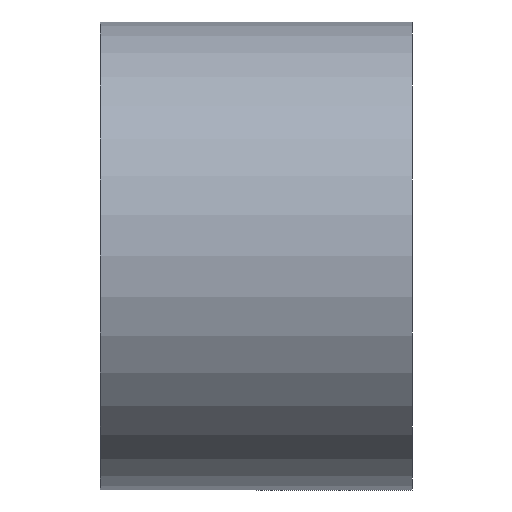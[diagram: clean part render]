
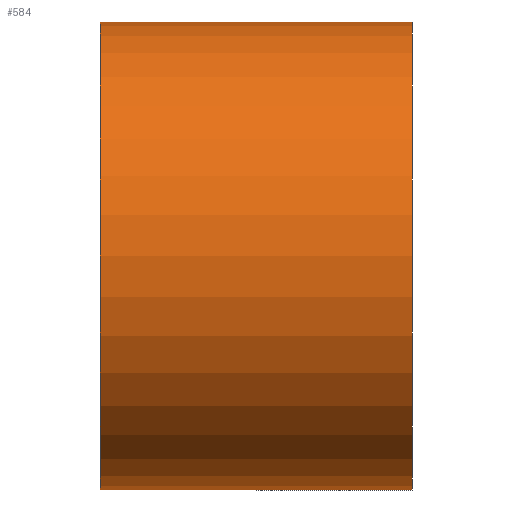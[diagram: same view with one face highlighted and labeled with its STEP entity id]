
A CAD part, front view. The second image highlights one B-rep face of the part: STEP entity #584.
In plain terms, the highlighted cylindrical face has radius 30 mm (diameter 60 mm), a partial arc.
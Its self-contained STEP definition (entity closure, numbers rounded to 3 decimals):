
#2 = DIRECTION ( 'NONE',  ( -1., 0., 0. ) ) ;
#24 = AXIS2_PLACEMENT_3D ( 'NONE', #585, #679, #399 ) ;
#43 = CARTESIAN_POINT ( 'NONE',  ( -20., 0., 30. ) ) ;
#46 = CIRCLE ( 'NONE', #452, 30. ) ;
#47 = CYLINDRICAL_SURFACE ( 'NONE', #24, 30. ) ;
#76 = DIRECTION ( 'NONE',  ( -1., 0., 0. ) ) ;
#102 = CARTESIAN_POINT ( 'NONE',  ( 20., 0., -30. ) ) ;
#133 = DIRECTION ( 'NONE',  ( 0., 0., 1. ) ) ;
#150 = EDGE_CURVE ( 'NONE', #180, #473, #309, .T. ) ;
#170 = LINE ( 'NONE', #444, #343 ) ;
#180 = VERTEX_POINT ( 'NONE', #501 ) ;
#288 = ORIENTED_EDGE ( 'NONE', *, *, #150, .F. ) ;
#309 = CIRCLE ( 'NONE', #700, 30. ) ;
#315 = DIRECTION ( 'NONE',  ( -1., 0., 0. ) ) ;
#331 = FACE_OUTER_BOUND ( 'NONE', #574, .T. ) ;
#343 = VECTOR ( 'NONE', #315, 1000. ) ;
#399 = DIRECTION ( 'NONE',  ( 0., 0., 1. ) ) ;
#431 = DIRECTION ( 'NONE',  ( -1., 0., 0. ) ) ;
#444 = CARTESIAN_POINT ( 'NONE',  ( 0., 0., 30. ) ) ;
#447 = CARTESIAN_POINT ( 'NONE',  ( 20., 0., 0. ) ) ;
#448 = CARTESIAN_POINT ( 'NONE',  ( -20., 0., 0. ) ) ;
#452 = AXIS2_PLACEMENT_3D ( 'NONE', #447, #76, #133 ) ;
#473 = VERTEX_POINT ( 'NONE', #43 ) ;
#488 = VERTEX_POINT ( 'NONE', #102 ) ;
#501 = CARTESIAN_POINT ( 'NONE',  ( -20., 0., -30. ) ) ;
#505 = EDGE_CURVE ( 'NONE', #571, #473, #170, .T. ) ;
#516 = EDGE_CURVE ( 'NONE', #488, #180, #662, .T. ) ;
#571 = VERTEX_POINT ( 'NONE', #719 ) ;
#574 = EDGE_LOOP ( 'NONE', ( #640, #586, #606, #288 ) ) ;
#584 = ADVANCED_FACE ( 'NONE', ( #331 ), #47, .T. ) ;
#585 = CARTESIAN_POINT ( 'NONE',  ( 0., 0., 0. ) ) ;
#586 = ORIENTED_EDGE ( 'NONE', *, *, #631, .T. ) ;
#599 = VECTOR ( 'NONE', #431, 1000. ) ;
#606 = ORIENTED_EDGE ( 'NONE', *, *, #505, .T. ) ;
#612 = CARTESIAN_POINT ( 'NONE',  ( 0., 0., -30. ) ) ;
#631 = EDGE_CURVE ( 'NONE', #488, #571, #46, .T. ) ;
#640 = ORIENTED_EDGE ( 'NONE', *, *, #516, .F. ) ;
#662 = LINE ( 'NONE', #612, #599 ) ;
#679 = DIRECTION ( 'NONE',  ( -1., 0., 0. ) ) ;
#700 = AXIS2_PLACEMENT_3D ( 'NONE', #448, #2, #728 ) ;
#719 = CARTESIAN_POINT ( 'NONE',  ( 20., 0., 30. ) ) ;
#728 = DIRECTION ( 'NONE',  ( 0., 0., 1. ) ) ;
